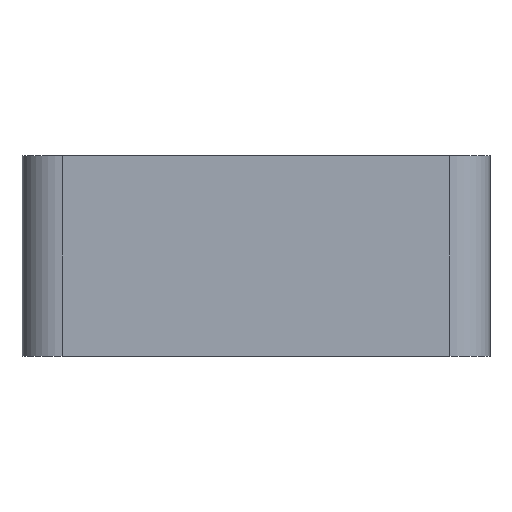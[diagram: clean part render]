
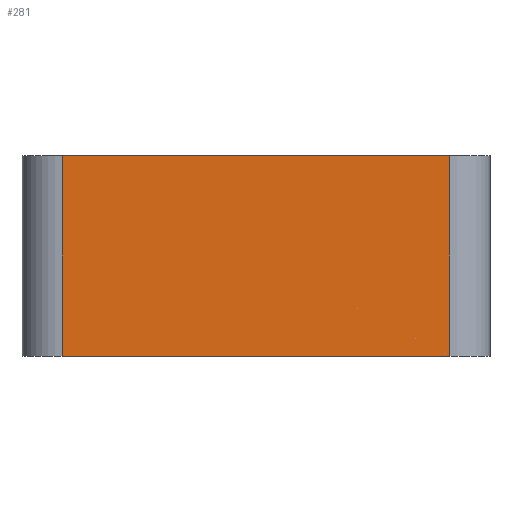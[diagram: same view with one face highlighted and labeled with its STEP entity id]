
A CAD part, front view. The second image highlights one B-rep face of the part: STEP entity #281.
In plain terms, the highlighted planar face has unit normal (0, -1, 0).
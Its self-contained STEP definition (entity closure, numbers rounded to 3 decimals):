
#160=FACE_OUTER_BOUND('',#902,.T.);
#281=ADVANCED_FACE('',(#160),#423,.T.);
#423=PLANE('',#2580);
#518=LINE('',#3689,#642);
#525=LINE('',#3786,#649);
#526=LINE('',#3789,#650);
#527=LINE('',#3790,#651);
#642=VECTOR('',#2731,1.);
#649=VECTOR('',#2748,1.);
#650=VECTOR('',#2749,1.);
#651=VECTOR('',#2750,1.);
#902=EDGE_LOOP('',(#1171,#1172,#1173,#1174));
#1171=ORIENTED_EDGE('',*,*,#2104,.T.);
#1172=ORIENTED_EDGE('',*,*,#2105,.T.);
#1173=ORIENTED_EDGE('',*,*,#2081,.T.);
#1174=ORIENTED_EDGE('',*,*,#2106,.T.);
#1843=VERTEX_POINT('',#3688);
#1844=VERTEX_POINT('',#3690);
#1865=VERTEX_POINT('',#3787);
#1866=VERTEX_POINT('',#3788);
#2081=EDGE_CURVE('',#1844,#1843,#518,.T.);
#2104=EDGE_CURVE('',#1865,#1866,#525,.T.);
#2105=EDGE_CURVE('',#1866,#1844,#526,.T.);
#2106=EDGE_CURVE('',#1843,#1865,#527,.T.);
#2580=AXIS2_PLACEMENT_3D('',#3791,#2751,#2752);
#2731=DIRECTION('',(-1.,0.,0.));
#2748=DIRECTION('',(1.,0.,0.));
#2749=DIRECTION('',(0.,0.,1.));
#2750=DIRECTION('',(0.,0.,-1.));
#2751=DIRECTION('',(0.,-1.,0.));
#2752=DIRECTION('',(0.,0.,-1.));
#3688=CARTESIAN_POINT('',(3.,0.,15.));
#3689=CARTESIAN_POINT('',(17.5,0.,15.));
#3690=CARTESIAN_POINT('',(32.,0.,15.));
#3786=CARTESIAN_POINT('',(17.5,0.,0.));
#3787=CARTESIAN_POINT('',(3.,0.,0.));
#3788=CARTESIAN_POINT('',(32.,0.,0.));
#3789=CARTESIAN_POINT('',(32.,0.,0.));
#3790=CARTESIAN_POINT('',(3.,0.,0.));
#3791=CARTESIAN_POINT('',(17.5,0.,0.));
